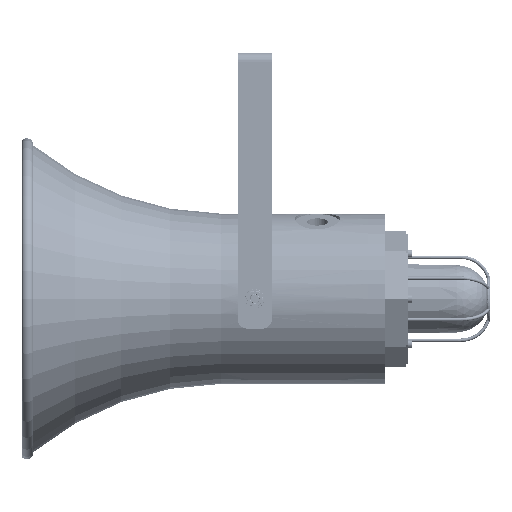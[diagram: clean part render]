
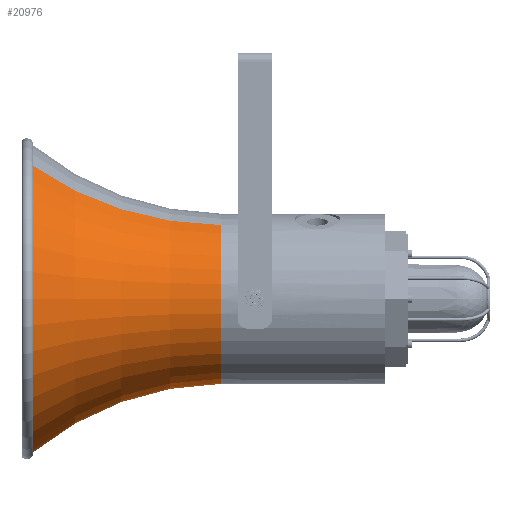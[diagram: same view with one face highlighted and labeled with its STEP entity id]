
A CAD part, left-side view. The second image highlights one B-rep face of the part: STEP entity #20976.
In plain terms, the highlighted toroidal (fillet/blend) face has major radius 340.879 mm and minor radius 265.9 mm.
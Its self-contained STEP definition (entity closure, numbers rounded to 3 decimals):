
#10922=CARTESIAN_POINT('',(0.,0.,-186.91));
#10923=DIRECTION('',(0.,0.,-1.));
#10924=DIRECTION('',(0.,-1.,0.));
#10925=AXIS2_PLACEMENT_3D('',#10922,#10923,#10924);
#13255=CARTESIAN_POINT('',(0.,-340.879,
-18.634));
#13256=DIRECTION('',(-1.,0.,0.));
#13257=DIRECTION('',(0.,1.,-0.013));
#13258=AXIS2_PLACEMENT_3D('',#13255,#13256,#13257);
#13260=CARTESIAN_POINT('',(0.,340.879,
-18.634));
#13261=DIRECTION('',(1.,0.,0.));
#13262=DIRECTION('',(0.,-1.,-0.013));
#13263=AXIS2_PLACEMENT_3D('',#13260,#13261,#13262);
#13265=CARTESIAN_POINT('',(0.,0.,-22.));
#13266=DIRECTION('',(0.,0.,-1.));
#13267=DIRECTION('',(0.,-1.,0.));
#13268=AXIS2_PLACEMENT_3D('',#13265,#13266,#13267);
#17197=CARTESIAN_POINT('',(0.,-135.,-186.91));
#17199=VERTEX_POINT('',#17197);
#17217=CARTESIAN_POINT('',(0.,-75.,-22.));
#17218=VERTEX_POINT('',#17217);
#17219=CARTESIAN_POINT('',(0.,135.,-186.91));
#17221=VERTEX_POINT('',#17219);
#17239=CARTESIAN_POINT('',(0.,75.,-22.));
#17240=VERTEX_POINT('',#17239);
#20965=CARTESIAN_POINT('',(0.,0.,-18.634));
#20966=DIRECTION('',(0.,0.,1.));
#20967=DIRECTION('',(0.,1.,0.));
#20968=AXIS2_PLACEMENT_3D('',#20965,#20966,#20967);
#20969=TOROIDAL_SURFACE('',#20968,340.879,265.9);
#20970=ORIENTED_EDGE('',*,*,#20956,.T.);
#20971=ORIENTED_EDGE('',*,*,#19156,.T.);
#20972=ORIENTED_EDGE('',*,*,#20959,.F.);
#20973=ORIENTED_EDGE('',*,*,#20906,.F.);
#20974=EDGE_LOOP('',(#20970,#20971,#20972,#20973));
#20975=FACE_OUTER_BOUND('',#20974,.F.);
#20976=ADVANCED_FACE('',(#20975),#20969,.F.);
#10926=CIRCLE('',#10925,135.);
#13259=CIRCLE('',#13258,265.9);
#13264=CIRCLE('',#13263,265.9);
#13269=CIRCLE('',#13268,75.);
#19156=EDGE_CURVE('',#17199,#17221,#10926,.T.);
#20906=EDGE_CURVE('',#17218,#17240,#13269,.T.);
#20956=EDGE_CURVE('',#17218,#17199,#13259,.T.);
#20959=EDGE_CURVE('',#17240,#17221,#13264,.T.);
